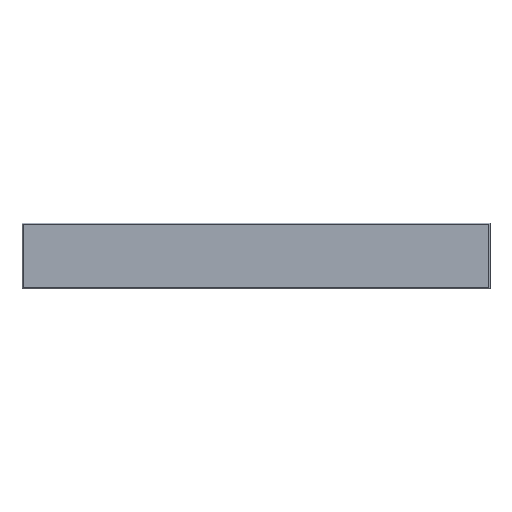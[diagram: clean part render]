
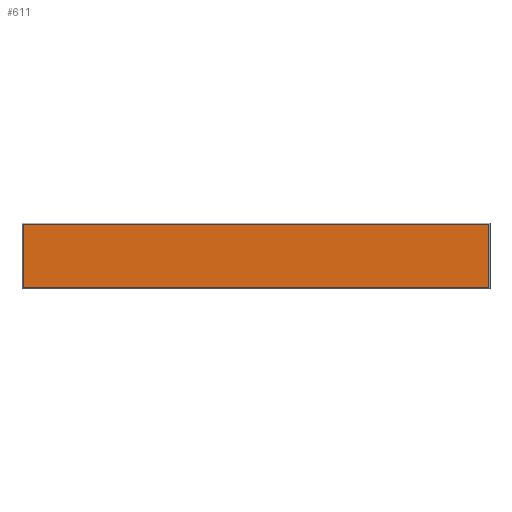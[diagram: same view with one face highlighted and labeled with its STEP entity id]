
A CAD part, top view. The second image highlights one B-rep face of the part: STEP entity #611.
In plain terms, the highlighted planar face has unit normal (0, 0, 1).
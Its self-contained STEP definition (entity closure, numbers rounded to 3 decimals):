
#361=DIRECTION('',(-1.,0.,0.));
#362=VECTOR('',#361,433.);
#363=CARTESIAN_POINT('',(216.5,29.5,3.));
#364=LINE('',#363,#362);
#368=DIRECTION('',(0.,1.,0.));
#369=VECTOR('',#368,59.);
#370=CARTESIAN_POINT('',(216.5,-29.5,3.));
#371=LINE('',#370,#369);
#375=DIRECTION('',(1.,0.,0.));
#376=VECTOR('',#375,433.);
#377=CARTESIAN_POINT('',(-216.5,-29.5,3.));
#378=LINE('',#377,#376);
#382=DIRECTION('',(0.,-1.,0.));
#383=VECTOR('',#382,59.);
#384=CARTESIAN_POINT('',(-216.5,29.5,3.));
#385=LINE('',#384,#383);
#400=CARTESIAN_POINT('',(216.5,29.5,3.));
#401=CARTESIAN_POINT('',(-216.5,29.5,3.));
#402=VERTEX_POINT('',#400);
#403=VERTEX_POINT('',#401);
#424=CARTESIAN_POINT('',(-216.5,-29.5,3.));
#425=CARTESIAN_POINT('',(216.5,-29.5,3.));
#426=VERTEX_POINT('',#424);
#427=VERTEX_POINT('',#425);
#599=CARTESIAN_POINT('',(0.,0.,3.));
#600=DIRECTION('',(0.,0.,1.));
#601=DIRECTION('',(1.,0.,0.));
#602=AXIS2_PLACEMENT_3D('',#599,#600,#601);
#603=PLANE('',#602);
#604=ORIENTED_EDGE('',*,*,#482,.F.);
#605=ORIENTED_EDGE('',*,*,#498,.F.);
#607=ORIENTED_EDGE('',*,*,#606,.F.);
#608=ORIENTED_EDGE('',*,*,#592,.F.);
#609=EDGE_LOOP('',(#604,#605,#607,#608));
#610=FACE_OUTER_BOUND('',#609,.F.);
#482=EDGE_CURVE('',#402,#403,#364,.T.);
#498=EDGE_CURVE('',#427,#402,#371,.T.);
#592=EDGE_CURVE('',#403,#426,#385,.T.);
#606=EDGE_CURVE('',#426,#427,#378,.T.);
#611=ADVANCED_FACE('',(#610),#603,.T.);
